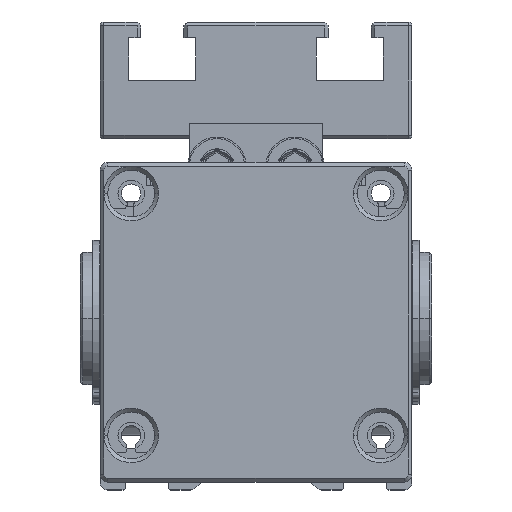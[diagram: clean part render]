
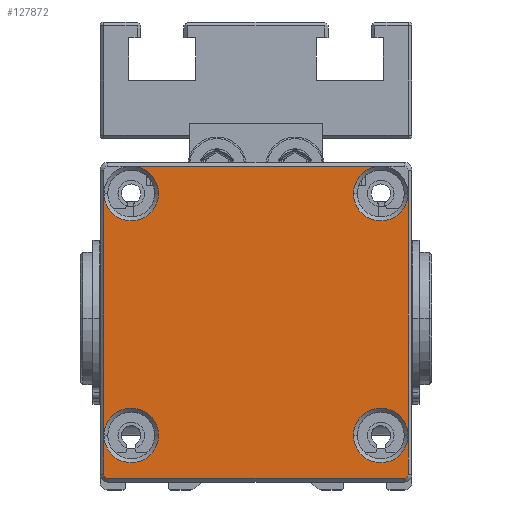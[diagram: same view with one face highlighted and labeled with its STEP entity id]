
A CAD part, front view. The second image highlights one B-rep face of the part: STEP entity #127872.
In plain terms, the highlighted planar face has unit normal (0, -1, 0) as drawn and (0, 0, 1) by its records, which use the part's own axes.
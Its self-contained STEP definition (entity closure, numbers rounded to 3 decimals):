
#1338 = AXIS2_PLACEMENT_3D ( 'NONE', #116731, #68252, #7943 ) ;
#2519 = EDGE_CURVE ( 'NONE', #89029, #139500, #126381, .T. ) ;
#4117 = DIRECTION ( 'NONE',  ( 1., 0., 0. ) ) ;
#4626 = AXIS2_PLACEMENT_3D ( 'NONE', #53999, #87342, #123849 ) ;
#4823 = CARTESIAN_POINT ( 'NONE',  ( -12.5, 38., 346. ) ) ;
#5813 = VERTEX_POINT ( 'NONE', #31835 ) ;
#6310 = AXIS2_PLACEMENT_3D ( 'NONE', #89143, #90711, #28043 ) ;
#7229 = EDGE_LOOP ( 'NONE', ( #28625, #110472, #90545, #28943, #29075, #127233, #85588, #58954, #74010, #61562, #120248, #93468, #7470, #12858, #54760, #43056 ) ) ;
#7470 = ORIENTED_EDGE ( 'NONE', *, *, #73713, .F. ) ;
#7570 = AXIS2_PLACEMENT_3D ( 'NONE', #12530, #33191, #130091 ) ;
#7943 = DIRECTION ( 'NONE',  ( 1., 0., 0. ) ) ;
#8238 = DIRECTION ( 'NONE',  ( 1., 0., 0. ) ) ;
#10542 = AXIS2_PLACEMENT_3D ( 'NONE', #29284, #43522, #40368 ) ;
#12530 = CARTESIAN_POINT ( 'NONE',  ( 16., 7., 346. ) ) ;
#12858 = ORIENTED_EDGE ( 'NONE', *, *, #113783, .F. ) ;
#16048 = CARTESIAN_POINT ( 'NONE',  ( 0., 1., 346. ) ) ;
#16998 = CARTESIAN_POINT ( 'NONE',  ( -19.5, 22.5, 346. ) ) ;
#21904 = DIRECTION ( 'NONE',  ( 0., 0., 1. ) ) ;
#22986 = CARTESIAN_POINT ( 'NONE',  ( -19.5, 2., 346. ) ) ;
#23091 = VERTEX_POINT ( 'NONE', #136791 ) ;
#28043 = DIRECTION ( 'NONE',  ( 1., 0., 0. ) ) ;
#28569 = VERTEX_POINT ( 'NONE', #79316 ) ;
#28625 = ORIENTED_EDGE ( 'NONE', *, *, #54439, .F. ) ;
#28869 = DIRECTION ( 'NONE',  ( 0., 1., 0. ) ) ;
#28943 = ORIENTED_EDGE ( 'NONE', *, *, #114557, .F. ) ;
#29075 = ORIENTED_EDGE ( 'NONE', *, *, #2519, .F. ) ;
#29284 = CARTESIAN_POINT ( 'NONE',  ( 19., 2., 346. ) ) ;
#30174 = EDGE_CURVE ( 'NONE', #37765, #130254, #109042, .T. ) ;
#31835 = CARTESIAN_POINT ( 'NONE',  ( 12.5, 38., 346. ) ) ;
#33002 = CARTESIAN_POINT ( 'NONE',  ( -16., 38., 346. ) ) ;
#33104 = CARTESIAN_POINT ( 'NONE',  ( -19.5, 7., 346. ) ) ;
#33191 = DIRECTION ( 'NONE',  ( 0., 0., 1. ) ) ;
#34320 = EDGE_CURVE ( 'NONE', #117528, #23091, #38347, .T. ) ;
#34404 = VERTEX_POINT ( 'NONE', #56269 ) ;
#37765 = VERTEX_POINT ( 'NONE', #109484 ) ;
#38347 = CIRCLE ( 'NONE', #10542, 0.5 ) ;
#38380 = LINE ( 'NONE', #97187, #50054 ) ;
#39046 = DIRECTION ( 'NONE',  ( 0., 0., 1. ) ) ;
#39846 = CARTESIAN_POINT ( 'NONE',  ( 16., 38., 346. ) ) ;
#40368 = DIRECTION ( 'NONE',  ( -1., 0., 0. ) ) ;
#43056 = ORIENTED_EDGE ( 'NONE', *, *, #114988, .F. ) ;
#43522 = DIRECTION ( 'NONE',  ( 0., 0., -1. ) ) ;
#46192 = CARTESIAN_POINT ( 'NONE',  ( 19.5, 4.5, 346. ) ) ;
#47450 = AXIS2_PLACEMENT_3D ( 'NONE', #33002, #21904, #117970 ) ;
#47490 = DIRECTION ( 'NONE',  ( 1., 0., 0. ) ) ;
#49768 = CARTESIAN_POINT ( 'NONE',  ( 12.5, 7., 346. ) ) ;
#50054 = VECTOR ( 'NONE', #132130, 1000. ) ;
#52295 = DIRECTION ( 'NONE',  ( 1., 0., 0. ) ) ;
#52578 = FACE_OUTER_BOUND ( 'NONE', #7229, .T. ) ;
#53999 = CARTESIAN_POINT ( 'NONE',  ( -19., 2., 346. ) ) ;
#54439 = EDGE_CURVE ( 'NONE', #149520, #34404, #55862, .T. ) ;
#54760 = ORIENTED_EDGE ( 'NONE', *, *, #132010, .F. ) ;
#55862 = LINE ( 'NONE', #16998, #157066 ) ;
#56269 = CARTESIAN_POINT ( 'NONE',  ( -19.5, 38., 346. ) ) ;
#58954 = ORIENTED_EDGE ( 'NONE', *, *, #140094, .T. ) ;
#59172 = AXIS2_PLACEMENT_3D ( 'NONE', #16048, #39046, #147860 ) ;
#59265 = VERTEX_POINT ( 'NONE', #153894 ) ;
#59940 = VERTEX_POINT ( 'NONE', #105932 ) ;
#61562 = ORIENTED_EDGE ( 'NONE', *, *, #30174, .F. ) ;
#62390 = EDGE_CURVE ( 'NONE', #59940, #149520, #64560, .T. ) ;
#64560 = CIRCLE ( 'NONE', #6310, 3.5 ) ;
#64968 = VECTOR ( 'NONE', #52295, 1000. ) ;
#67074 = DIRECTION ( 'NONE',  ( 0., 1., 0. ) ) ;
#67304 = LINE ( 'NONE', #112623, #64968 ) ;
#68252 = DIRECTION ( 'NONE',  ( 0., 0., 1. ) ) ;
#68548 = CARTESIAN_POINT ( 'NONE',  ( 0., 1.5, 346. ) ) ;
#69834 = CIRCLE ( 'NONE', #1338, 3.5 ) ;
#70013 = CARTESIAN_POINT ( 'NONE',  ( -16., 38., 346. ) ) ;
#70586 = EDGE_CURVE ( 'NONE', #149520, #59940, #69834, .T. ) ;
#71206 = VECTOR ( 'NONE', #109032, 1000. ) ;
#71566 = DIRECTION ( 'NONE',  ( 0., 0., 1. ) ) ;
#72469 = VERTEX_POINT ( 'NONE', #88445 ) ;
#72907 = CIRCLE ( 'NONE', #111017, 3.5 ) ;
#73713 = EDGE_CURVE ( 'NONE', #28569, #5813, #136525, .T. ) ;
#74010 = ORIENTED_EDGE ( 'NONE', *, *, #123963, .F. ) ;
#74833 = CARTESIAN_POINT ( 'NONE',  ( 19.5, 22.5, 346. ) ) ;
#79316 = CARTESIAN_POINT ( 'NONE',  ( 16., 41.5, 346. ) ) ;
#82691 = DIRECTION ( 'NONE',  ( 1., 0., 0. ) ) ;
#84789 = CARTESIAN_POINT ( 'NONE',  ( 16., 38., 346. ) ) ;
#85588 = ORIENTED_EDGE ( 'NONE', *, *, #34320, .F. ) ;
#87296 = CIRCLE ( 'NONE', #94901, 3.5 ) ;
#87342 = DIRECTION ( 'NONE',  ( 0., 0., -1. ) ) ;
#88445 = CARTESIAN_POINT ( 'NONE',  ( 19.5, 38., 346. ) ) ;
#89029 = VERTEX_POINT ( 'NONE', #150672 ) ;
#89143 = CARTESIAN_POINT ( 'NONE',  ( -16., 7., 346. ) ) ;
#90545 = ORIENTED_EDGE ( 'NONE', *, *, #70586, .F. ) ;
#90711 = DIRECTION ( 'NONE',  ( 0., 0., 1. ) ) ;
#92101 = AXIS2_PLACEMENT_3D ( 'NONE', #106825, #143303, #155270 ) ;
#93468 = ORIENTED_EDGE ( 'NONE', *, *, #111434, .F. ) ;
#94901 = AXIS2_PLACEMENT_3D ( 'NONE', #84789, #110970, #47490 ) ;
#97187 = CARTESIAN_POINT ( 'NONE',  ( -19.5, 4.5, 346. ) ) ;
#103554 = EDGE_CURVE ( 'NONE', #89029, #23091, #128145, .T. ) ;
#105932 = CARTESIAN_POINT ( 'NONE',  ( -12.5, 7., 346. ) ) ;
#106093 = AXIS2_PLACEMENT_3D ( 'NONE', #39846, #114538, #4117 ) ;
#106825 = CARTESIAN_POINT ( 'NONE',  ( 16., 7., 346. ) ) ;
#109032 = DIRECTION ( 'NONE',  ( 0., 1., 0. ) ) ;
#109042 = CIRCLE ( 'NONE', #7570, 3.5 ) ;
#109484 = CARTESIAN_POINT ( 'NONE',  ( 19.5, 7., 346. ) ) ;
#110472 = ORIENTED_EDGE ( 'NONE', *, *, #62390, .F. ) ;
#110970 = DIRECTION ( 'NONE',  ( 0., 0., 1. ) ) ;
#111017 = AXIS2_PLACEMENT_3D ( 'NONE', #70013, #71566, #82691 ) ;
#111434 = EDGE_CURVE ( 'NONE', #5813, #72469, #87296, .T. ) ;
#112623 = CARTESIAN_POINT ( 'NONE',  ( 0., 41.5, 346. ) ) ;
#113783 = EDGE_CURVE ( 'NONE', #59265, #28569, #67304, .T. ) ;
#114538 = DIRECTION ( 'NONE',  ( 0., 0., 1. ) ) ;
#114557 = EDGE_CURVE ( 'NONE', #139500, #149520, #38380, .T. ) ;
#114988 = EDGE_CURVE ( 'NONE', #34404, #130355, #72907, .T. ) ;
#116731 = CARTESIAN_POINT ( 'NONE',  ( -16., 7., 346. ) ) ;
#117528 = VERTEX_POINT ( 'NONE', #144024 ) ;
#117970 = DIRECTION ( 'NONE',  ( 1., 0., 0. ) ) ;
#119132 = VECTOR ( 'NONE', #8238, 1000. ) ;
#120248 = ORIENTED_EDGE ( 'NONE', *, *, #145368, .T. ) ;
#123849 = DIRECTION ( 'NONE',  ( -1., 0., 0. ) ) ;
#123963 = EDGE_CURVE ( 'NONE', #130254, #37765, #130211, .T. ) ;
#124780 = PLANE ( 'NONE',  #59172 ) ;
#125671 = VECTOR ( 'NONE', #67074, 1000. ) ;
#126381 = CIRCLE ( 'NONE', #4626, 0.5 ) ;
#127233 = ORIENTED_EDGE ( 'NONE', *, *, #103554, .T. ) ;
#127872 = ADVANCED_FACE ( 'NONE', ( #52578 ), #124780, .T. ) ;
#128145 = LINE ( 'NONE', #68548, #119132 ) ;
#130091 = DIRECTION ( 'NONE',  ( 1., 0., 0. ) ) ;
#130211 = CIRCLE ( 'NONE', #92101, 3.5 ) ;
#130254 = VERTEX_POINT ( 'NONE', #49768 ) ;
#130355 = VERTEX_POINT ( 'NONE', #4823 ) ;
#132010 = EDGE_CURVE ( 'NONE', #130355, #59265, #136163, .T. ) ;
#132130 = DIRECTION ( 'NONE',  ( 0., 1., 0. ) ) ;
#132827 = LINE ( 'NONE', #74833, #71206 ) ;
#136163 = CIRCLE ( 'NONE', #47450, 3.5 ) ;
#136525 = CIRCLE ( 'NONE', #106093, 3.5 ) ;
#136791 = CARTESIAN_POINT ( 'NONE',  ( 19., 1.5, 346. ) ) ;
#139500 = VERTEX_POINT ( 'NONE', #22986 ) ;
#140094 = EDGE_CURVE ( 'NONE', #117528, #37765, #154983, .T. ) ;
#143303 = DIRECTION ( 'NONE',  ( 0., 0., 1. ) ) ;
#144024 = CARTESIAN_POINT ( 'NONE',  ( 19.5, 2., 346. ) ) ;
#145368 = EDGE_CURVE ( 'NONE', #37765, #72469, #132827, .T. ) ;
#147860 = DIRECTION ( 'NONE',  ( 1., 0., 0. ) ) ;
#149520 = VERTEX_POINT ( 'NONE', #33104 ) ;
#150672 = CARTESIAN_POINT ( 'NONE',  ( -19., 1.5, 346. ) ) ;
#153894 = CARTESIAN_POINT ( 'NONE',  ( -16., 41.5, 346. ) ) ;
#154983 = LINE ( 'NONE', #46192, #125671 ) ;
#155270 = DIRECTION ( 'NONE',  ( 1., 0., 0. ) ) ;
#157066 = VECTOR ( 'NONE', #28869, 1000. ) ;
